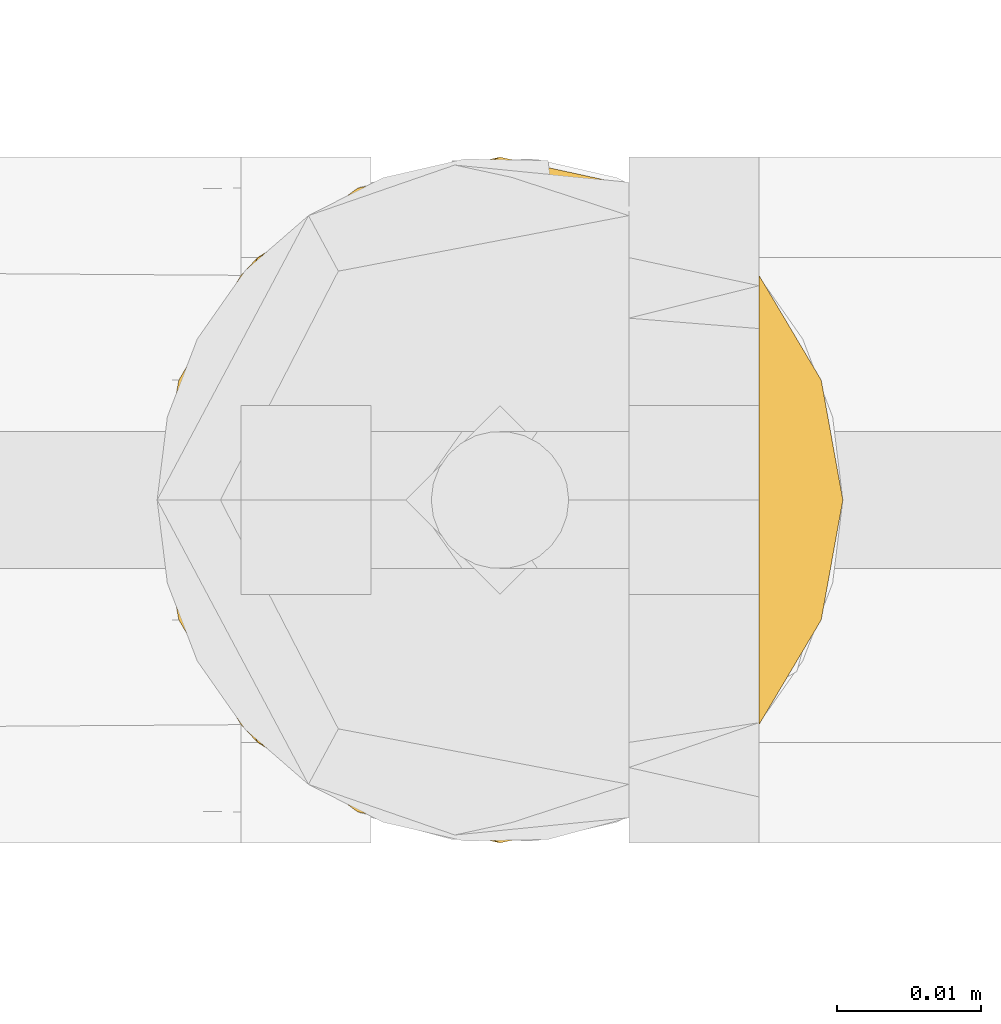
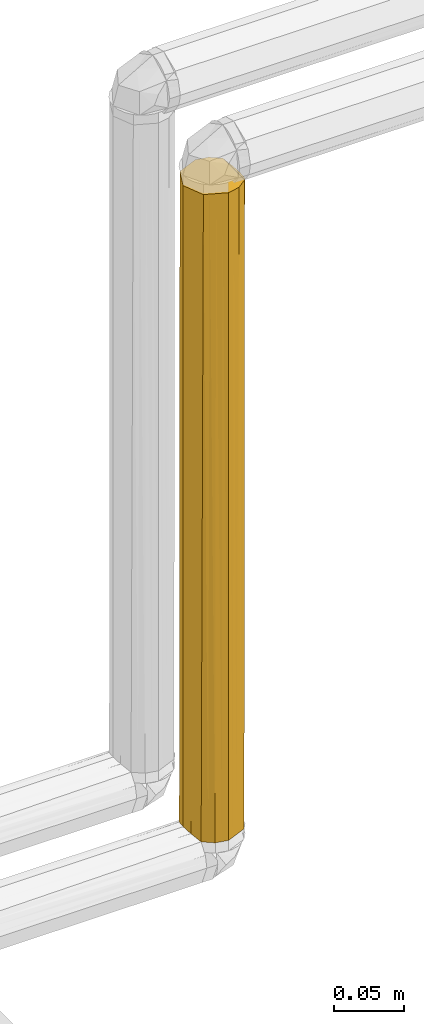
# One storey, part 164 of 652: 1 covering.
"""IFC2X3 building model written with IfcOpenShell, lengths in millimetres."""

from ifc_helpers import new_model, entity, si_unit, converted_unit, direction, frame, origin, place, context, subcontext, project, spatial, faceted_brep, material, type_object, element, save


model = new_model("IFC2X3")

# Units and contexts
model_context = context("Model", 3, precision=0.01, world=frame((0.0, 0.0, 308426.39999999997)), true_north=direction((6.123233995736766e-17, 1.0)))
plan_context = context("Plan", 3, precision=0.01, world=frame((0.0, 0.0, 308426.39999999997)), true_north=direction((6.123233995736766e-17, 1.0)))
body_context = subcontext(model_context, "Body", "Model", "MODEL_VIEW")
ifc_project = project(units=[si_unit("LENGTHUNIT", "METRE", prefix="MILLI"), si_unit("AREAUNIT", "SQUARE_METRE"), si_unit("VOLUMEUNIT", "CUBIC_METRE"), converted_unit("PLANEANGLEUNIT", "DEGREE", entity("IfcPlaneAngleMeasure", 0.017453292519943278), si_unit("PLANEANGLEUNIT", "RADIAN"), dimensions=[0, 0, 0, 0, 0, 0, 0])], contexts=[model_context, plan_context])

# Site, building, storey
site_placement = place(None, origin())
site = spatial("IfcSite", under=ifc_project, at=site_placement, Name="Default", CompositionType="ELEMENT")
building_placement = place(site_placement, origin())
building = spatial("IfcBuilding", under=site, at=building_placement, CompositionType="ELEMENT")
storey_placement = place(building_placement, frame((0.0, 0.0, 1730.6999999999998)))
storey = spatial("IfcBuildingStorey", under=building, at=storey_placement, Name="EG_Produktion_FFB", CompositionType="ELEMENT", Elevation=1730.6999999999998)

# Covering
ifc_material = material(Name="Dämmung - Armaflex-Schlauch")
covering_type = type_object("IfcCoveringType", Name="Rohrdämmung außen:Armaflex-Schlauch", PredefinedType="INSULATION")
covering_placement = place(storey_placement, frame((41284.00441089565, 54866.678785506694, 3283.645022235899)))
element("IfcCovering", 1, at=covering_placement, inside=storey, type_object=covering_type, material=ifc_material, Name="Rohrdämmung außen:Armaflex-Schlauch", ObjectType="Rohrdämmung außen:Armaflex-Schlauch", PredefinedType="INSULATION", context=body_context, shape_type="Brep", body=[
    faceted_brep([(7.407522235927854, 9.78712898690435, -565.6947722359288), (7.407522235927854, 40.92841548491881, -565.6947722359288), (11.448105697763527, 43.951164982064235, -565.6947722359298), (15.488689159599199, 46.97391447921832, -565.6947722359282), (20.42323069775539, 48.047093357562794, -565.6947722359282), (25.357772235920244, 49.12027223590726, -565.6947722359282), (29.558428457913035, 47.3803034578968, -565.6947722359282), (33.759084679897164, 45.64033467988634, -565.6947722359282), (37.95974090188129, 43.90036590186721, -565.6947722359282), (42.160397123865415, 42.160397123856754, -565.6947722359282), (43.90036590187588, 37.95974090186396, -565.6947722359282), (45.64033467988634, 33.759084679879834, -565.6947722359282), (47.38030345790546, 29.558428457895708, -565.6947722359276), (49.12027223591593, 25.35777223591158, -565.6947722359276), (47.38030345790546, 21.157116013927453, -565.6947722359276), (45.64033467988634, 16.956459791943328, -565.6947722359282), (43.90036590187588, 12.755803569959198, -565.6947722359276), (42.160397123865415, 8.55514734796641, -565.6947722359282), (37.95974090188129, 6.815178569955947, -565.6947722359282), (33.759084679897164, 5.075209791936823, -565.6947722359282), (29.86440777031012, 3.4619817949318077, -565.6947722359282), (25.357772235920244, 1.5952722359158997, -565.6947722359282), (20.42323069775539, 2.6684511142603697, -565.6947722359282), (15.488689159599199, 3.7416299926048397, -565.6947722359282), (11.448105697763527, 6.764379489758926, -565.6947722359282), (12.755803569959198, 6.815178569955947, -1.5952722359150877), (16.956459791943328, 5.075209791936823, -1.5952722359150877), (21.157116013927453, 3.3352410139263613, -1.5952722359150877), (25.35777223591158, 1.5952722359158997, -1.5952722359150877), (30.29231377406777, 2.6684511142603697, -1.5952722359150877), (35.22685531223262, 3.741629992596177, -1.5952722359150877), (39.267438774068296, 6.764379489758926, -1.5952722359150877), (43.30802223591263, 9.78712898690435, -1.5952722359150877), (43.30802223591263, 40.92841548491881, -1.5952722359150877), (39.267438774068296, 43.951164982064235, -1.5952722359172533), (35.22685531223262, 46.973914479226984, -1.5952722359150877), (30.29231377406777, 48.047093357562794, -1.5952722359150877), (25.35777223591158, 49.12027223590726, -1.5952722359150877), (20.85113670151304, 47.25356267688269, -1.5952722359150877), (16.956459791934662, 45.64033467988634, -1.5952722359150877), (12.755803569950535, 43.90036590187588, -1.5952722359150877), (8.55514734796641, 42.160397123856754, -1.5952722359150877), (6.815178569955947, 37.95974090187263, -1.5952722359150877), (5.075209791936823, 33.759084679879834, -1.5952722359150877), (3.335241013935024, 29.558428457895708, -1.5952722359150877), (1.5952722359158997, 25.35777223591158, -1.5952722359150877), (3.335241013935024, 21.157116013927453, -1.5952722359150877), (5.075209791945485, 16.956459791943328, -1.5952722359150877), (6.815178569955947, 12.755803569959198, -1.5952722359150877), (8.55514734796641, 8.55514734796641, -1.5952722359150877), (47.61983887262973, 33.66781407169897, -5.907088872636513), (45.46393055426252, 37.2981147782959, -3.7511805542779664), (48.3700555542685, 29.51279315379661, -6.657305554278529), (49.12027223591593, 25.35777223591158, -7.407522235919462), (48.3700555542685, 21.202751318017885, -6.6573055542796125), (47.61983887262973, 17.04773040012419, -5.907088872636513), (45.46393055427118, 13.417429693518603, -3.7511805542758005), (2.3454889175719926, 21.202751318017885, -560.6327389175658), (5.2516139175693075, 13.41742969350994, -563.5388639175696), (3.09570559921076, 17.04773040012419, -561.38295559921), (1.5952722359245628, 25.35777223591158, -559.8825222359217), (2.3454889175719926, 29.512793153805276, -560.632738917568), (3.09570559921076, 33.66781407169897, -561.38295559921), (5.25161391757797, 37.29811477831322, -563.5388639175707)], [[[0, 1, 2, 3, 4, 5, 6, 7, 8, 9, 10, 11, 12, 13, 14, 15, 16, 17, 18, 19, 20, 21, 22, 23, 24]], [[25, 26, 27, 28, 29, 30, 31, 32, 33, 34, 35, 36, 37, 38, 39, 40, 41, 42, 43, 44, 45, 46, 47, 48, 49]], [[37, 6, 5]], [[11, 50, 12]], [[6, 37, 36]], [[36, 7, 6]], [[33, 9, 34]], [[10, 33, 51]], [[51, 50, 11]], [[52, 53, 13]], [[35, 34, 8]], [[34, 9, 8]], [[35, 8, 7]], [[12, 50, 52]], [[9, 33, 10]], [[36, 35, 7]], [[51, 11, 10]], [[52, 13, 12]], [[53, 54, 13]], [[29, 28, 20]], [[14, 54, 55]], [[30, 18, 31]], [[56, 15, 55]], [[17, 32, 31]], [[30, 29, 19]], [[19, 29, 20]], [[13, 54, 14]], [[31, 18, 17]], [[28, 21, 20]], [[30, 19, 18]], [[15, 56, 16]], [[32, 16, 56]], [[14, 55, 15]], [[16, 32, 17]], [[24, 25, 49]], [[28, 27, 21]], [[26, 23, 22]], [[26, 25, 23]], [[45, 57, 46]], [[0, 48, 58]], [[59, 47, 46]], [[22, 27, 26]], [[47, 59, 58]], [[23, 25, 24]], [[57, 59, 46]], [[21, 27, 22]], [[49, 0, 24]], [[60, 57, 45]], [[48, 0, 49]], [[48, 47, 58]], [[45, 61, 60]], [[4, 39, 38]], [[61, 45, 44]], [[62, 43, 63]], [[2, 41, 40]], [[41, 2, 1]], [[39, 4, 3]], [[1, 42, 41]], [[43, 62, 44]], [[38, 5, 4]], [[1, 63, 42]], [[40, 3, 2]], [[40, 39, 3]], [[44, 62, 61]], [[38, 37, 5]], [[63, 43, 42]], [[61, 62, 63, 1, 0, 58, 59, 57, 60]], [[32, 56, 55, 54, 53, 52, 50, 51, 33]]]),
])

save(model, "model.ifc")
